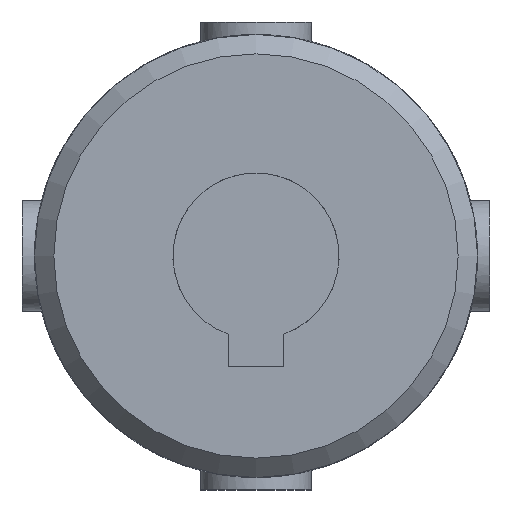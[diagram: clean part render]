
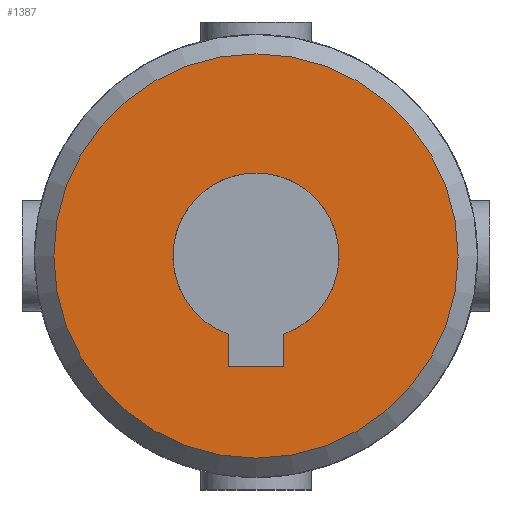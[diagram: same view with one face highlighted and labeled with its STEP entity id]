
A CAD part, front view. The second image highlights one B-rep face of the part: STEP entity #1387.
In plain terms, the highlighted planar face has unit normal (0, -1, 0).
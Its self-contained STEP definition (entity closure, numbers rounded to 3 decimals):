
#110=LINE('',#2672,#165);
#112=LINE('',#2680,#167);
#114=LINE('',#2688,#169);
#165=VECTOR('',#1801,1.172);
#167=VECTOR('',#1805,2.);
#169=VECTOR('',#1809,1.172);
#216=PLANE('',#1521);
#327=FACE_BOUND('',#509,.T.);
#396=FACE_OUTER_BOUND('',#508,.T.);
#508=EDGE_LOOP('',(#1209));
#509=EDGE_LOOP('',(#1210,#1211,#1212,#1213));
#576=CIRCLE('',#1516,3.);
#578=CIRCLE('',#1519,7.3);
#689=VERTEX_POINT('',#2669);
#690=VERTEX_POINT('',#2671);
#692=VERTEX_POINT('',#2679);
#694=VERTEX_POINT('',#2687);
#696=VERTEX_POINT('',#2696);
#862=EDGE_CURVE('',#690,#689,#110,.T.);
#865=EDGE_CURVE('',#692,#690,#112,.T.);
#868=EDGE_CURVE('',#694,#692,#114,.T.);
#871=EDGE_CURVE('',#689,#694,#576,.T.);
#873=EDGE_CURVE('',#696,#696,#578,.T.);
#1209=ORIENTED_EDGE('',*,*,#873,.F.);
#1210=ORIENTED_EDGE('',*,*,#868,.T.);
#1211=ORIENTED_EDGE('',*,*,#865,.T.);
#1212=ORIENTED_EDGE('',*,*,#862,.T.);
#1213=ORIENTED_EDGE('',*,*,#871,.T.);
#1387=ADVANCED_FACE('',(#396,#327),#216,.F.);
#1516=AXIS2_PLACEMENT_3D('',#2692,#1815,#1816);
#1519=AXIS2_PLACEMENT_3D('',#2697,#1821,#1822);
#1521=AXIS2_PLACEMENT_3D('',#2865,#1829,#1830);
#1801=DIRECTION('',(0.,0.,1.));
#1805=DIRECTION('',(-1.,0.,0.));
#1809=DIRECTION('',(0.,0.,-1.));
#1815=DIRECTION('center_axis',(0.,1.,0.));
#1816=DIRECTION('ref_axis',(-0.333,0.,0.943));
#1821=DIRECTION('center_axis',(0.,1.,0.));
#1822=DIRECTION('ref_axis',(1.,0.,0.));
#1829=DIRECTION('center_axis',(0.,1.,0.));
#1830=DIRECTION('ref_axis',(0.,0.,1.));
#2669=CARTESIAN_POINT('',(-1.,-21.,-2.828));
#2671=CARTESIAN_POINT('',(-1.,-21.,-4.));
#2672=CARTESIAN_POINT('',(-1.,-21.,-2.));
#2679=CARTESIAN_POINT('',(1.,-21.,-4.));
#2680=CARTESIAN_POINT('',(0.5,-21.,-4.));
#2687=CARTESIAN_POINT('',(1.,-21.,-2.828));
#2688=CARTESIAN_POINT('',(1.,-21.,-1.414));
#2692=CARTESIAN_POINT('Origin',(0.,-21.,0.));
#2696=CARTESIAN_POINT('',(-7.3,-21.,0.));
#2697=CARTESIAN_POINT('Origin',(0.,-21.,0.));
#2865=CARTESIAN_POINT('Origin',(0.,-21.,0.));
